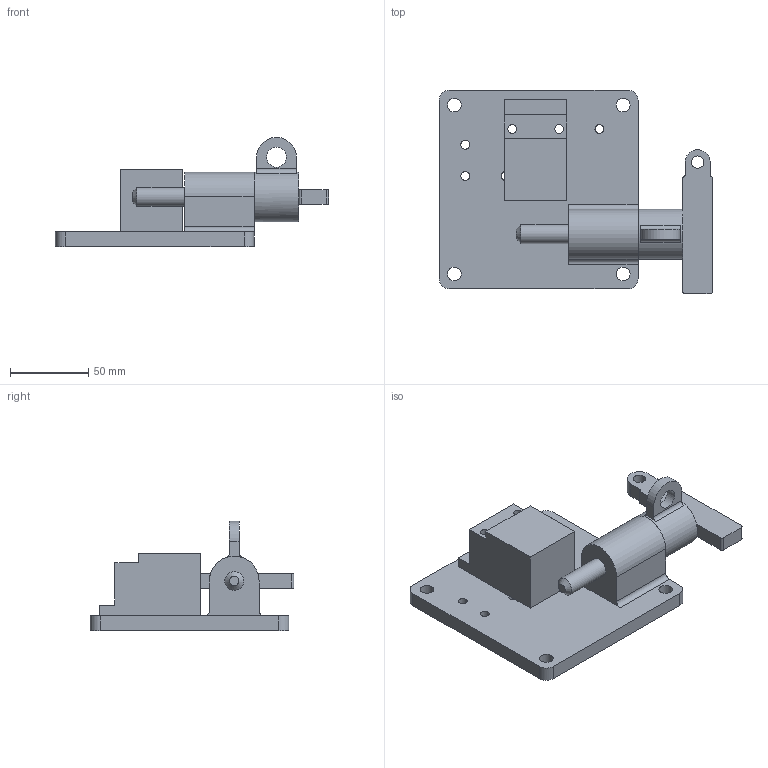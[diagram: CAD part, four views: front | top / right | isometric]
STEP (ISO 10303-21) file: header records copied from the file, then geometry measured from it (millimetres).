
FILE_DESCRIPTION(/* description */ (''),/* implementation_level */ '2;1');
FILE_NAME(/* name */ 'C:\Users\rcarver\Desktop\Tru-LOK pin\Ford-FCA\With Switch\SP12Y075TY00201.stp',/* time_stamp */ '2016-06-21T11:07:36-04:00',/* author */ ('rcarver'),/* organization */ (''),/* preprocessor_version */ 'ST-DEVELOPER v16.5',/* originating_system */ 'Autodesk Inventor 2017',/* authorisation */ '');
FILE_SCHEMA (('AUTOMOTIVE_DESIGN { 1 0 10303 214 3 1 1 }'));
Length unit declared in the file: millimetre
Products named in the file (1): SP12Y075TY00201
Bounding box: 174.62 x 130.18 x 69.85 mm (x, y, z)
Volume: 328381.1 mm3; surface area: 68647.3 mm2
Topology: 3 solids, 3 shells, 69 faces, 193 edges, 132 vertices
Faces by surface type: plane 37, cylinder 31, cone 1
Full cylindrical faces by diameter (mm): 5.588 x2, 5.59 x6, 7.94 x1, 8.74 x4, 12 x1, 12.7 x1, 31.75 x1
Entity records: 2196 total; most frequent: DIRECTION 368, CARTESIAN_POINT 346, ORIENTED_EDGE 320, EDGE_CURVE 160, AXIS2_PLACEMENT_3D 138, EDGE_LOOP 116, VERTEX_POINT 116, LINE 92
